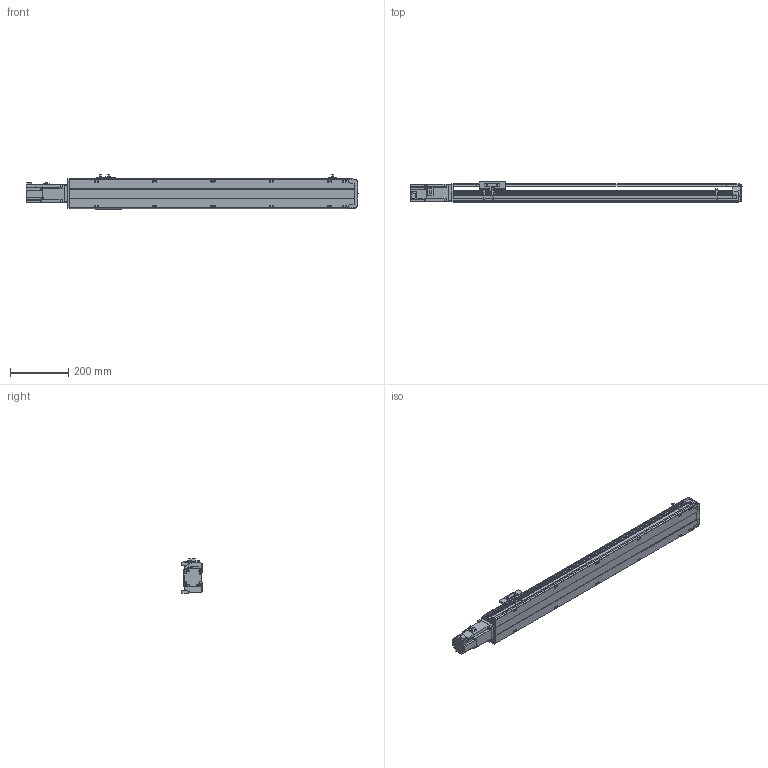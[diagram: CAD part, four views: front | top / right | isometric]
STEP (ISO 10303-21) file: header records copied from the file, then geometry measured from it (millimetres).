
FILE_DESCRIPTION( ( 'STEP AP214' ), '1' );
FILE_NAME( 'x:/temp/worker_13/temp/exporttempdir_3252_148_EllpH/format_0/PSS120-L10-S750-BC-T40-C1-N(0).stp', '2022-06-02T00:33:29', ( 'License CC BY-ND 4.0' ), ( 'CADENAS' ), ' ', 'PARTsolutions', ' ' );
FILE_SCHEMA( ( 'AUTOMOTIVE_DESIGN { 1 0 10303 214 1 1 1 1 }' ) );
Length unit declared in the file: millimetre
Products named in the file (8): PSS120-L10-S750-BC-T40-C1-N(0); _PSS120-S750-BC-C1-N_body; _PSS120-N_Q; _PSS120-BC-C1-N_sl; _PSS120-N_sensor; _PSS120BC-N_h; _T40-p1; _PSS120-S750-BC-N_S
Assembly tree (9 placements, depth 2):
  PSS120-L10-S750-BC-T40-C1-N(0)
    _PSS120-S750-BC-C1-N_body
    _PSS120-N_Q
    _PSS120-BC-C1-N_sl
    _PSS120-N_sensor  x3
    _PSS120BC-N_h
    _T40-p1
    _PSS120-S750-BC-N_S
Bounding box: 1138.7 x 70 x 117.7 mm (x, y, z)
Volume: 3643373 mm3; surface area: 653898.4 mm2
Topology: 9 solids, 9 shells, 833 faces, 2224 edges, 1474 vertices
Faces by surface type: plane 559, cylinder 250, cone 24
Full cylindrical faces by diameter (mm): 2.8 x3, 4 x4, 4.134 x16, 4.2 x4, 4.4 x2, 4.5 x4, 4.6 x3, 4.917 x4, 5 x6, 5.5 x19, 7 x2, 8 x8, 8.5 x16, 14 x1, 28 x1, 32 x1, 50 x1
Entity records: 28505 total; most frequent: CARTESIAN_POINT 4406, DIRECTION 3747, ORIENTED_EDGE 3610, EDGE_CURVE 1805, VERTEX_POINT 1262, LINE 1253, VECTOR 1253, AXIS2_PLACEMENT_3D 1247
